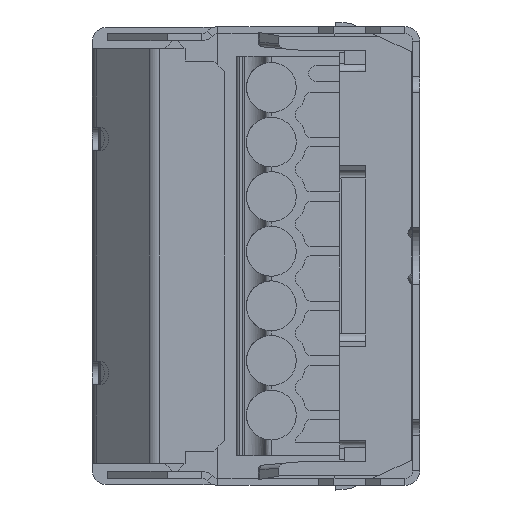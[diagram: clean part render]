
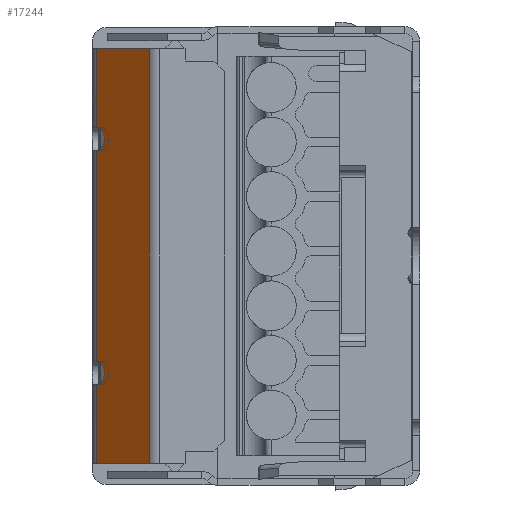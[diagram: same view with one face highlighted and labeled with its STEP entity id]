
A CAD part, left-side view. The second image highlights one B-rep face of the part: STEP entity #17244.
In plain terms, the highlighted planar face has unit normal (-0.707, 0.707, 0).
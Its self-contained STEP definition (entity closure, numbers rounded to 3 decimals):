
#609 = DIRECTION ( 'NONE',  ( 0., 0., -1. ) ) ;
#773 = CARTESIAN_POINT ( 'NONE',  ( -110.342, 11.239, 14.65 ) ) ;
#2682 = CARTESIAN_POINT ( 'NONE',  ( -110.342, 11.239, 14.65 ) ) ;
#4266 = CARTESIAN_POINT ( 'NONE',  ( -110.342, 11.239, 8.25 ) ) ;
#4477 = VECTOR ( 'NONE', #13215, 1000. ) ;
#4801 = PLANE ( 'NONE',  #21166 ) ;
#5032 = CARTESIAN_POINT ( 'NONE',  ( -110.324, 11.257, -7.5 ) ) ;
#5827 = CARTESIAN_POINT ( 'NONE',  ( -110.342, 11.239, 6.75 ) ) ;
#7495 = DIRECTION ( 'NONE',  ( 0., 0., -1. ) ) ;
#8748 = LINE ( 'NONE', #11572, #14648 ) ;
#9362 = ORIENTED_EDGE ( 'NONE', *, *, #22083, .F. ) ;
#9433 = EDGE_CURVE ( 'NONE', #29551, #28776, #14723, .T. ) ;
#9566 = CIRCLE ( 'NONE', #26156, 0.75 ) ;
#10387 = CARTESIAN_POINT ( 'NONE',  ( -110.342, 11.239, -8.25 ) ) ;
#11215 = EDGE_CURVE ( 'NONE', #30041, #15978, #8748, .T. ) ;
#11339 = EDGE_CURVE ( 'NONE', #15219, #28776, #13013, .T. ) ;
#11572 = CARTESIAN_POINT ( 'NONE',  ( -109.808, 11.773, -13.3 ) ) ;
#11811 = LINE ( 'NONE', #773, #4477 ) ;
#11877 = EDGE_CURVE ( 'NONE', #14861, #30041, #11811, .T. ) ;
#12150 = LINE ( 'NONE', #25880, #32089 ) ;
#12268 = LINE ( 'NONE', #17289, #32638 ) ;
#13013 = CIRCLE ( 'NONE', #13027, 0.75 ) ;
#13027 = AXIS2_PLACEMENT_3D ( 'NONE', #14481, #32305, #17094 ) ;
#13215 = DIRECTION ( 'NONE',  ( 0., 0., -1. ) ) ;
#14138 = EDGE_CURVE ( 'NONE', #29551, #26788, #12268, .T. ) ;
#14157 = DIRECTION ( 'NONE',  ( -0.707, -0.707, 0. ) ) ;
#14481 = CARTESIAN_POINT ( 'NONE',  ( -110.324, 11.257, 7.5 ) ) ;
#14648 = VECTOR ( 'NONE', #14157, 1000. ) ;
#14723 = LINE ( 'NONE', #2682, #20822 ) ;
#14861 = VERTEX_POINT ( 'NONE', #10387 ) ;
#14870 = CARTESIAN_POINT ( 'NONE',  ( 45.049, 166.629, 14.65 ) ) ;
#15219 = VERTEX_POINT ( 'NONE', #5827 ) ;
#15263 = LINE ( 'NONE', #26873, #22204 ) ;
#15978 = VERTEX_POINT ( 'NONE', #22975 ) ;
#16076 = CARTESIAN_POINT ( 'NONE',  ( -110.342, 11.239, 13.3 ) ) ;
#16124 = ORIENTED_EDGE ( 'NONE', *, *, #9433, .T. ) ;
#16743 = CARTESIAN_POINT ( 'NONE',  ( -113.736, 7.845, 13.3 ) ) ;
#17094 = DIRECTION ( 'NONE',  ( 0., 0., 1. ) ) ;
#17244 = ADVANCED_FACE ( 'NONE', ( #27623 ), #4801, .T. ) ;
#17289 = CARTESIAN_POINT ( 'NONE',  ( -109.808, 11.773, 13.3 ) ) ;
#17454 = DIRECTION ( 'NONE',  ( 0., 0., 1. ) ) ;
#17471 = ORIENTED_EDGE ( 'NONE', *, *, #14138, .F. ) ;
#18546 = ORIENTED_EDGE ( 'NONE', *, *, #11339, .F. ) ;
#19187 = EDGE_LOOP ( 'NONE', ( #24614, #17471, #16124, #18546, #20585, #9362, #29857, #21530 ) ) ;
#19488 = EDGE_CURVE ( 'NONE', #26788, #15978, #15263, .T. ) ;
#20331 = DIRECTION ( 'NONE',  ( 0., 0., -1. ) ) ;
#20585 = ORIENTED_EDGE ( 'NONE', *, *, #32534, .T. ) ;
#20822 = VECTOR ( 'NONE', #20331, 1000. ) ;
#21166 = AXIS2_PLACEMENT_3D ( 'NONE', #14870, #32671, #17454 ) ;
#21530 = ORIENTED_EDGE ( 'NONE', *, *, #11215, .T. ) ;
#22083 = EDGE_CURVE ( 'NONE', #14861, #31447, #9566, .T. ) ;
#22204 = VECTOR ( 'NONE', #29373, 1000. ) ;
#22580 = CARTESIAN_POINT ( 'NONE',  ( -110.342, 11.239, -13.3 ) ) ;
#22879 = DIRECTION ( 'NONE',  ( -0.707, 0.707, 0. ) ) ;
#22975 = CARTESIAN_POINT ( 'NONE',  ( -113.736, 7.845, -13.3 ) ) ;
#24614 = ORIENTED_EDGE ( 'NONE', *, *, #19488, .F. ) ;
#25880 = CARTESIAN_POINT ( 'NONE',  ( -110.342, 11.239, 14.65 ) ) ;
#26156 = AXIS2_PLACEMENT_3D ( 'NONE', #5032, #22879, #7495 ) ;
#26788 = VERTEX_POINT ( 'NONE', #16743 ) ;
#26873 = CARTESIAN_POINT ( 'NONE',  ( -113.736, 7.845, 14.65 ) ) ;
#27623 = FACE_OUTER_BOUND ( 'NONE', #19187, .T. ) ;
#27676 = DIRECTION ( 'NONE',  ( -0.707, -0.707, 0. ) ) ;
#28062 = CARTESIAN_POINT ( 'NONE',  ( -110.342, 11.239, -6.75 ) ) ;
#28776 = VERTEX_POINT ( 'NONE', #4266 ) ;
#29373 = DIRECTION ( 'NONE',  ( 0., 0., -1. ) ) ;
#29551 = VERTEX_POINT ( 'NONE', #16076 ) ;
#29857 = ORIENTED_EDGE ( 'NONE', *, *, #11877, .T. ) ;
#30041 = VERTEX_POINT ( 'NONE', #22580 ) ;
#31447 = VERTEX_POINT ( 'NONE', #28062 ) ;
#32089 = VECTOR ( 'NONE', #609, 1000. ) ;
#32305 = DIRECTION ( 'NONE',  ( -0.707, 0.707, 0. ) ) ;
#32534 = EDGE_CURVE ( 'NONE', #15219, #31447, #12150, .T. ) ;
#32638 = VECTOR ( 'NONE', #27676, 1000. ) ;
#32671 = DIRECTION ( 'NONE',  ( -0.707, 0.707, 0. ) ) ;
